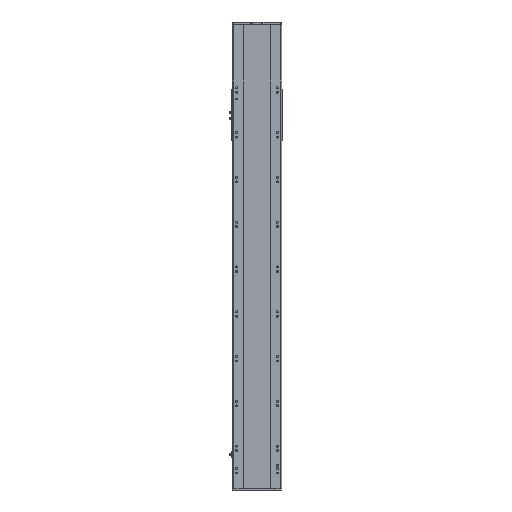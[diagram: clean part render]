
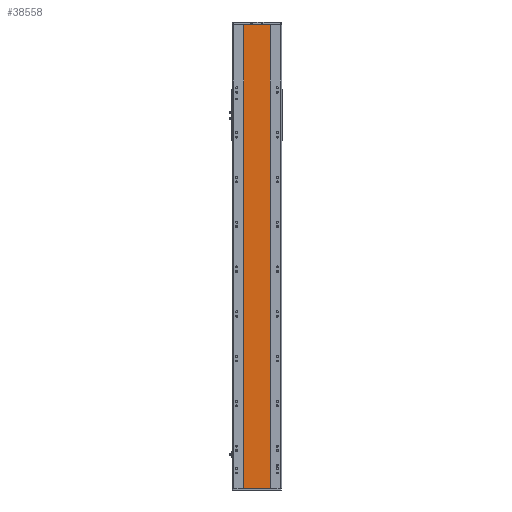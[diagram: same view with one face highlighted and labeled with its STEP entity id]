
A CAD part, front view. The second image highlights one B-rep face of the part: STEP entity #38558.
In plain terms, the highlighted planar face has unit normal (0, -1, 0).
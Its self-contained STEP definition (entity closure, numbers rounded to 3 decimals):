
#451 = VERTEX_POINT ( 'NONE', #24756 ) ;
#1838 = EDGE_CURVE ( 'NONE', #451, #26289, #21684, .T. ) ;
#1948 = EDGE_CURVE ( 'NONE', #451, #6683, #5514, .T. ) ;
#2127 = ORIENTED_EDGE ( 'NONE', *, *, #22270, .F. ) ;
#2851 = DIRECTION ( 'NONE',  ( -1., 0., 0. ) ) ;
#3027 = LINE ( 'NONE', #8113, #14754 ) ;
#5131 = PLANE ( 'NONE',  #10378 ) ;
#5514 = LINE ( 'NONE', #33210, #25091 ) ;
#6683 = VERTEX_POINT ( 'NONE', #20070 ) ;
#8113 = CARTESIAN_POINT ( 'NONE',  ( 59., 1., 1035.5 ) ) ;
#9700 = CARTESIAN_POINT ( 'NONE',  ( 59., 1., -1035.5 ) ) ;
#10378 = AXIS2_PLACEMENT_3D ( 'NONE', #21424, #17605, #2851 ) ;
#11122 = VERTEX_POINT ( 'NONE', #9700 ) ;
#13469 = CARTESIAN_POINT ( 'NONE',  ( -59., 1., 1035.5 ) ) ;
#13743 = ORIENTED_EDGE ( 'NONE', *, *, #13801, .T. ) ;
#13801 = EDGE_CURVE ( 'NONE', #6683, #11122, #14658, .T. ) ;
#13830 = VECTOR ( 'NONE', #22623, 1000. ) ;
#14289 = DIRECTION ( 'NONE',  ( 0., 0., -1. ) ) ;
#14578 = DIRECTION ( 'NONE',  ( 0., 0., -1. ) ) ;
#14658 = LINE ( 'NONE', #27115, #33638 ) ;
#14754 = VECTOR ( 'NONE', #14289, 1000. ) ;
#17557 = DIRECTION ( 'NONE',  ( 1., 0., 0. ) ) ;
#17605 = DIRECTION ( 'NONE',  ( 0., 1., 0. ) ) ;
#20070 = CARTESIAN_POINT ( 'NONE',  ( -59., 1., -1035.5 ) ) ;
#21424 = CARTESIAN_POINT ( 'NONE',  ( -59., 1., 1035.5 ) ) ;
#21684 = LINE ( 'NONE', #13469, #13830 ) ;
#22270 = EDGE_CURVE ( 'NONE', #26289, #11122, #3027, .T. ) ;
#22623 = DIRECTION ( 'NONE',  ( 1., 0., 0. ) ) ;
#23437 = FACE_OUTER_BOUND ( 'NONE', #30246, .T. ) ;
#24756 = CARTESIAN_POINT ( 'NONE',  ( -59., 1., 1035.5 ) ) ;
#25091 = VECTOR ( 'NONE', #14578, 1000. ) ;
#26289 = VERTEX_POINT ( 'NONE', #34401 ) ;
#27115 = CARTESIAN_POINT ( 'NONE',  ( -59., 1., -1035.5 ) ) ;
#30246 = EDGE_LOOP ( 'NONE', ( #13743, #2127, #30372, #38479 ) ) ;
#30372 = ORIENTED_EDGE ( 'NONE', *, *, #1838, .F. ) ;
#33210 = CARTESIAN_POINT ( 'NONE',  ( -59., 1., 1035.5 ) ) ;
#33638 = VECTOR ( 'NONE', #17557, 1000. ) ;
#34401 = CARTESIAN_POINT ( 'NONE',  ( 59., 1., 1035.5 ) ) ;
#38479 = ORIENTED_EDGE ( 'NONE', *, *, #1948, .T. ) ;
#38558 = ADVANCED_FACE ( 'NONE', ( #23437 ), #5131, .F. ) ;
